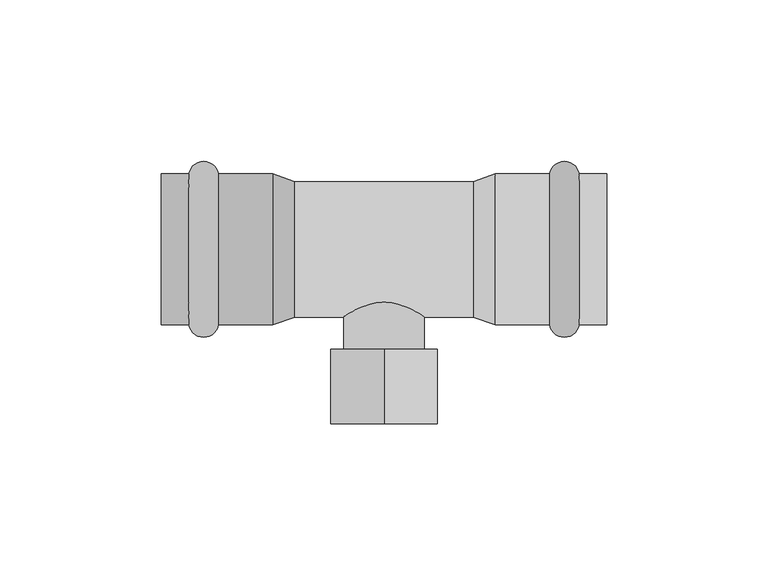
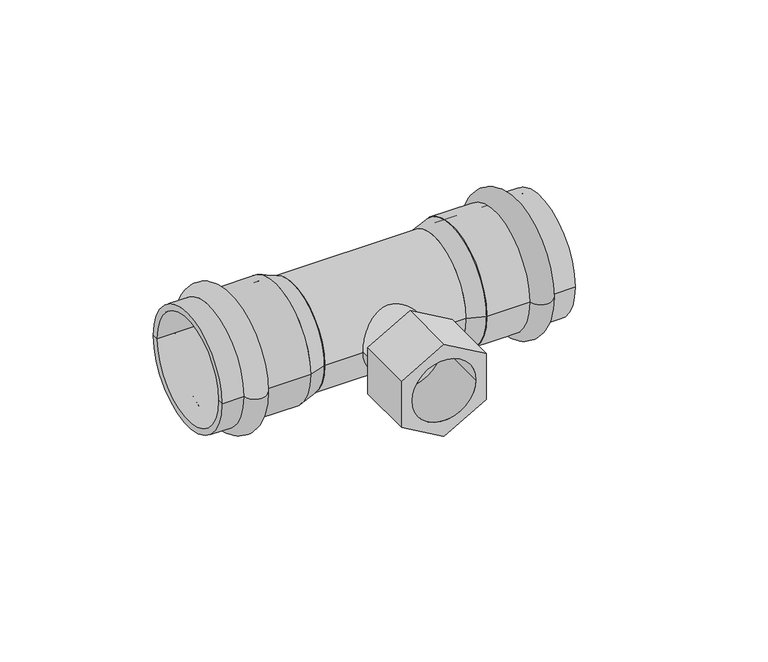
"""IFC4 building model written with IfcOpenShell, lengths in millimetres: pipe fitting geometry, VALTEC_VTi.932.I_Тройник с переходом на внутреннюю резьбу нержавеющая сталь : VTi.932.I."""

from ifc_helpers import new_model, si_unit, point, frame, origin, origin_2d, place, context, project, spatial, polyline, circle_curve, ellipse_curve, trimmed, segment, composite_curve, outline, extrude, source, transform, mapped, element, save
from ifc_brep_helpers import plane_surface, cylinder_surface, revolved_surface, advanced_brep


def pipe_fitting_965f6414(model_context):
    return source(origin(), model_context, "Body", "SolidModel", [
        advanced_brep(
        [(60.4464272, 23.35, 0.0), (60.4464272, -23.35, 0.0), (51.3535728, -23.35, 0.0), (51.3535728, 23.35, 0.0), (69.0, 23.35, 0.0), (69.0, -23.35, 0.0), (69.0, 21.0, 0.0), (69.0, -21.0, 0.0), (34.5, 21.0, 0.0), (34.5, -21.0, 0.0), (34.5, 23.35, 0.0), (34.5, -23.35, 0.0)],
        [
            (0, 1, circle_curve(frame((60.4464272, 0.0, 0.0), z_axis=(-1.0, 0.0, 0.0), x_axis=(0.0, -1.0, 0.0)), 23.35)),
            (1, 2, circle_curve(frame((55.9, -22.65, 0.0), z_axis=(0.0, 0.0, -1.0), x_axis=(-1.0, 0.0, 0.0)), 4.6)),
            (2, 3, circle_curve(frame((51.3535728, 0.0, 0.0), z_axis=(1.0, 0.0, 0.0), x_axis=(0.0, -1.0, 0.0)), 23.35)),
            (3, 0, circle_curve(frame((55.9, 22.65, 0.0), z_axis=(0.0, 0.0, -1.0), x_axis=(-1.0, 0.0, 0.0)), 4.6)),
            (1, 0, circle_curve(frame((60.4464272, 0.0, 0.0), z_axis=(-1.0, 0.0, 0.0), x_axis=(0.0, -1.0, 0.0)), 23.35)),
            (3, 2, circle_curve(frame((51.3535728, 0.0, 0.0), z_axis=(1.0, 0.0, 0.0), x_axis=(0.0, -1.0, 0.0)), 23.35)),
            (4, 5, circle_curve(frame((69.0, 0.0, 0.0), z_axis=(-1.0, 0.0, 0.0), x_axis=(0.0, -1.0, 0.0)), 23.35)),
            (5, 1),
            (0, 4),
            (5, 4, circle_curve(frame((69.0, 0.0, 0.0), z_axis=(-1.0, 0.0, 0.0), x_axis=(0.0, -1.0, 0.0)), 23.35)),
            (6, 7, circle_curve(frame((69.0, 0.0, 0.0), z_axis=(-1.0, 0.0, 0.0), x_axis=(0.0, -1.0, 0.0)), 21.0)),
            (7, 5),
            (4, 6),
            (7, 6, circle_curve(frame((69.0, 0.0, 0.0), z_axis=(-1.0, 0.0, 0.0), x_axis=(0.0, -1.0, 0.0)), 21.0)),
            (8, 9, circle_curve(frame((34.5, 0.0, 0.0), z_axis=(-1.0, 0.0, 0.0), x_axis=(0.0, -1.0, 0.0)), 21.0)),
            (9, 7),
            (6, 8),
            (9, 8, circle_curve(frame((34.5, 0.0, 0.0), z_axis=(-1.0, 0.0, 0.0), x_axis=(0.0, -1.0, 0.0)), 21.0)),
            (10, 11, circle_curve(frame((34.5, 0.0, 0.0), z_axis=(-1.0, 0.0, 0.0), x_axis=(0.0, -1.0, 0.0)), 23.35)),
            (11, 9),
            (8, 10),
            (11, 10, circle_curve(frame((34.5, 0.0, 0.0), z_axis=(-1.0, 0.0, 0.0), x_axis=(0.0, -1.0, 0.0)), 23.35)),
            (2, 11),
            (10, 3),
        ],
        [
            revolved_surface(trimmed(ellipse_curve(frame((55.9, -22.65, 0.0), z_axis=(0.0, 0.0, 1.0), x_axis=(-1.0, 0.0, 0.0)), 4.6, 4.6), [point((51.3535728, -23.35, 0.0))], [point((60.4464272, -23.35, 0.0))], True, "CARTESIAN"), (72.5364426, 0.0, 0.0), (1.0, 0.0, 0.0)),
            cylinder_surface(frame((72.5364426, 0.0, 0.0), z_axis=(1.0, 0.0, 0.0), x_axis=(0.0, -1.0, 0.0)), 23.35),
            plane_surface(frame((69.0, 0.0, 0.0), z_axis=(1.0, 0.0, 0.0), x_axis=(0.0, -1.0, 0.0))),
            revolved_surface(polyline([(69.0, -21.0, 0.0), (34.5, -21.0, 0.0)]), (72.5364426, 0.0, 0.0), (1.0, 0.0, 0.0)),
            plane_surface(frame((34.5, 0.0, 0.0), z_axis=(-1.0, 0.0, 0.0), x_axis=(0.0, -1.0, 0.0))),
        ],
        [
            (0, [[1, 2, 3, 4]]),
            (0, [[5, -4, 6, -2]]),
            (1, [[7, 8, -1, 9]]),
            (1, [[10, -9, -5, -8]]),
            (2, [[11, 12, -7, 13]]),
            (2, [[14, -13, -10, -12]]),
            (3, [[15, 16, -11, 17]]),
            (3, [[18, -17, -14, -16]]),
            (4, [[19, 20, -15, 21]]),
            (4, [[22, -21, -18, -20]]),
            (1, [[-3, 23, -19, 24]]),
            (1, [[-6, -24, -22, -23]]),
        ],
    ),
        advanced_brep(
        [(-60.4464272, -23.35, 0.0), (-60.4464272, 23.35, 0.0), (-51.3535728, 23.35, 0.0), (-51.3535728, -23.35, 0.0), (-69.0, -23.35, 0.0), (-69.0, 23.35, 0.0), (-69.0, -21.0, 0.0), (-69.0, 21.0, 0.0), (-34.5, -21.0, 0.0), (-34.5, 21.0, 0.0), (-34.5, -23.35, 0.0), (-34.5, 23.35, 0.0)],
        [
            (0, 1, circle_curve(frame((-60.4464272, 0.0, 0.0), z_axis=(1.0, 0.0, 0.0), x_axis=(0.0, 1.0, 0.0)), 23.35)),
            (1, 2, circle_curve(frame((-55.9, 22.65, 0.0), z_axis=(0.0, 0.0, -1.0), x_axis=(1.0, 0.0, 0.0)), 4.6)),
            (2, 3, circle_curve(frame((-51.3535728, 0.0, 0.0), z_axis=(-1.0, 0.0, 0.0), x_axis=(0.0, 1.0, 0.0)), 23.35)),
            (3, 0, circle_curve(frame((-55.9, -22.65, 0.0), z_axis=(0.0, 0.0, -1.0), x_axis=(1.0, 0.0, 0.0)), 4.6)),
            (1, 0, circle_curve(frame((-60.4464272, 0.0, 0.0), z_axis=(1.0, 0.0, 0.0), x_axis=(0.0, 1.0, 0.0)), 23.35)),
            (3, 2, circle_curve(frame((-51.3535728, 0.0, 0.0), z_axis=(-1.0, 0.0, 0.0), x_axis=(0.0, 1.0, 0.0)), 23.35)),
            (4, 5, circle_curve(frame((-69.0, 0.0, 0.0), z_axis=(1.0, 0.0, 0.0), x_axis=(0.0, 1.0, 0.0)), 23.35)),
            (5, 1),
            (0, 4),
            (5, 4, circle_curve(frame((-69.0, 0.0, 0.0), z_axis=(1.0, 0.0, 0.0), x_axis=(0.0, 1.0, 0.0)), 23.35)),
            (6, 7, circle_curve(frame((-69.0, 0.0, 0.0), z_axis=(1.0, 0.0, 0.0), x_axis=(0.0, 1.0, 0.0)), 21.0)),
            (7, 5),
            (4, 6),
            (7, 6, circle_curve(frame((-69.0, 0.0, 0.0), z_axis=(1.0, 0.0, 0.0), x_axis=(0.0, 1.0, 0.0)), 21.0)),
            (8, 9, circle_curve(frame((-34.5, 0.0, 0.0), z_axis=(1.0, 0.0, 0.0), x_axis=(0.0, 1.0, 0.0)), 21.0)),
            (9, 7),
            (6, 8),
            (9, 8, circle_curve(frame((-34.5, 0.0, 0.0), z_axis=(1.0, 0.0, 0.0), x_axis=(0.0, 1.0, 0.0)), 21.0)),
            (10, 11, circle_curve(frame((-34.5, 0.0, 0.0), z_axis=(1.0, 0.0, 0.0), x_axis=(0.0, 1.0, 0.0)), 23.35)),
            (11, 9),
            (8, 10),
            (11, 10, circle_curve(frame((-34.5, 0.0, 0.0), z_axis=(1.0, 0.0, 0.0), x_axis=(0.0, 1.0, 0.0)), 23.35)),
            (2, 11),
            (10, 3),
        ],
        [
            revolved_surface(trimmed(ellipse_curve(frame((-55.9, 22.65, 0.0), z_axis=(0.0, 0.0, 1.0), x_axis=(1.0, 0.0, 0.0)), 4.6, 4.6), [point((-51.3535728, 23.35, 0.0))], [point((-60.4464272, 23.35, 0.0))], True, "CARTESIAN"), (-72.5364426, 0.0, 0.0), (-1.0, 0.0, 0.0)),
            cylinder_surface(frame((-72.5364426, 0.0, 0.0), z_axis=(-1.0, 0.0, 0.0), x_axis=(0.0, 1.0, 0.0)), 23.35),
            plane_surface(frame((-69.0, 0.0, 0.0), z_axis=(-1.0, 0.0, 0.0), x_axis=(0.0, 1.0, 0.0))),
            revolved_surface(polyline([(-69.0, 21.0, 0.0), (-34.5, 21.0, 0.0)]), (-72.5364426, 0.0, 0.0), (-1.0, 0.0, 0.0)),
            plane_surface(frame((-34.5, 0.0, 0.0), z_axis=(1.0, 0.0, 0.0), x_axis=(0.0, 1.0, 0.0))),
        ],
        [
            (0, [[1, 2, 3, 4]]),
            (0, [[5, -4, 6, -2]]),
            (1, [[7, 8, -1, 9]]),
            (1, [[10, -9, -5, -8]]),
            (2, [[11, 12, -7, 13]]),
            (2, [[14, -13, -10, -12]]),
            (3, [[15, 16, -11, 17]]),
            (3, [[18, -17, -14, -16]]),
            (4, [[19, 20, -15, 21]]),
            (4, [[22, -21, -18, -20]]),
            (1, [[-3, 23, -19, 24]]),
            (1, [[-6, -24, -22, -23]]),
        ],
    ),
        extrude(outline(polyline([(19.0525589, 0.0), (9.5262794, -16.5), (-9.5262794, -16.5), (-19.0525589, 0.0), (-9.5262794, 16.5), (9.5262794, 16.5), (19.0525589, 0.0)]), holes=[composite_curve([segment(trimmed(circle_curve(origin_2d(), 12.5), [point((0.0, -12.5))], [point((0.0, 12.5))], True, "CARTESIAN"), True, "CONTINUOUS"), segment(trimmed(circle_curve(origin_2d(), 12.5), [point((0.0, 12.5))], [point((0.0, -12.5))], True, "CARTESIAN"), True, "CONTINUOUS")], self_intersect=False)]), frame((0.0, -54.0, 0.0), z_axis=(0.0, 1.0, 0.0), x_axis=(0.0, 0.0, 1.0)), (0.0, 0.0, 1.0), 23.0),
        extrude(outline(composite_curve([segment(trimmed(circle_curve(origin_2d(), 12.5), [point((0.0, -12.5))], [point((0.0, 12.5))], False, "CARTESIAN"), True, "CONTINUOUS"), segment(trimmed(circle_curve(origin_2d(), 12.5), [point((0.0, 12.5))], [point((0.0, -12.5))], False, "CARTESIAN"), True, "CONTINUOUS")], self_intersect=False)), frame((0.0, -31.0, 0.0), z_axis=(0.0, 1.0, 0.0), x_axis=(0.0, 0.0, 1.0)), (0.0, 0.0, 1.0), 31.0),
        extrude(outline(composite_curve([segment(trimmed(circle_curve(origin_2d(), 21.0), [point((-21.0, 0.0))], [point((21.0, 0.0))], False, "CARTESIAN"), True, "CONTINUOUS"), segment(trimmed(circle_curve(origin_2d(), 21.0), [point((21.0, 0.0))], [point((-21.0, 0.0))], False, "CARTESIAN"), True, "CONTINUOUS")], self_intersect=False)), frame((-27.6, 0.0, 0.0), z_axis=(1.0, 0.0, 0.0), x_axis=(0.0, 1.0, 0.0)), (0.0, 0.0, 1.0), 55.2),
        advanced_brep(
        [(34.5, -23.35, 0.0), (34.5, 23.35, 0.0), (27.6, -21.0, 0.0), (27.6, 21.0, 0.0)],
        [
            (0, 1, circle_curve(frame((34.5, 0.0, 0.0), z_axis=(1.0, 0.0, 0.0), x_axis=(0.0, -1.0, 0.0)), 23.35)),
            (1, 0, circle_curve(frame((34.5, 0.0, 0.0), z_axis=(1.0, 0.0, 0.0), x_axis=(0.0, 1.0, 0.0)), 23.35)),
            (2, 3, circle_curve(frame((27.6, 0.0, 0.0), z_axis=(-1.0, 0.0, 0.0), x_axis=(0.0, 1.0, 0.0)), 21.0)),
            (3, 2, circle_curve(frame((27.6, 0.0, 0.0), z_axis=(-1.0, 0.0, 0.0), x_axis=(0.0, -1.0, 0.0)), 21.0)),
            (3, 1),
            (0, 2),
        ],
        [
            plane_surface(frame((34.5, 0.0, 0.0), z_axis=(1.0, 0.0, 0.0), x_axis=(0.0, 0.0, 1.0))),
            plane_surface(frame((27.6, 0.0, 0.0), z_axis=(-1.0, 0.0, 0.0), x_axis=(0.0, 0.0, 1.0))),
            revolved_surface(polyline([(27.6, 21.00000000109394, 0.0), (34.5, 23.35, 0.0)]), (-34.0595745, 0.0, 0.0), (1.0, 0.0, 0.0)),
            revolved_surface(polyline([(27.6, -21.00000000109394, 0.0), (34.5, -23.35, 0.0)]), (-34.0595745, 0.0, 0.0), (1.0, 0.0, 0.0)),
        ],
        [
            (0, [[1, 2]]),
            (1, [[3, 4]]),
            (2, [[-4, 5, -1, 6]]),
            (3, [[-3, -6, -2, -5]]),
        ],
    ),
        advanced_brep(
        [(-34.5, -23.35, 0.0), (-34.5, 23.35, 0.0), (-27.6, -21.0, 0.0), (-27.6, 21.0, 0.0)],
        [
            (0, 1, circle_curve(frame((-34.5, 0.0, 0.0), z_axis=(-1.0, 0.0, 0.0), x_axis=(0.0, -1.0, 0.0)), 23.35)),
            (1, 0, circle_curve(frame((-34.5, 0.0, 0.0), z_axis=(-1.0, 0.0, 0.0), x_axis=(0.0, 1.0, 0.0)), 23.35)),
            (2, 3, circle_curve(frame((-27.6, 0.0, 0.0), z_axis=(1.0, 0.0, 0.0), x_axis=(0.0, 1.0, 0.0)), 21.0)),
            (3, 2, circle_curve(frame((-27.6, 0.0, 0.0), z_axis=(1.0, 0.0, 0.0), x_axis=(0.0, -1.0, 0.0)), 21.0)),
            (2, 0),
            (1, 3),
        ],
        [
            plane_surface(frame((-34.5, 0.0, 0.0), z_axis=(-1.0, 0.0, 0.0), x_axis=(0.0, 0.0, -1.0))),
            plane_surface(frame((-27.6, 0.0, 0.0), z_axis=(1.0, 0.0, 0.0), x_axis=(0.0, 0.0, -1.0))),
            revolved_surface(polyline([(-27.6, -21.00000000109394, 0.0), (-34.5, -23.35, 0.0)]), (34.0595745, 0.0, 0.0), (-1.0, 0.0, 0.0)),
            revolved_surface(polyline([(-27.6, 21.00000000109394, 0.0), (-34.5, 23.35, 0.0)]), (34.0595745, 0.0, 0.0), (-1.0, 0.0, 0.0)),
        ],
        [
            (0, [[1, 2]]),
            (1, [[3, 4]]),
            (2, [[-3, 5, -2, 6]]),
            (3, [[-4, -6, -1, -5]]),
        ],
    ),
    ])


if __name__ == "__main__":
    model = new_model("IFC4")
    model_context = context("Model", 3, world=origin())
    ifc_project = project(units=[si_unit("LENGTHUNIT", "METRE", prefix="MILLI")], contexts=[model_context])
    site = spatial("IfcSite", under=ifc_project)
    building = spatial("IfcBuilding", under=site)
    placement = place(None, origin())
    pipe_fitting_shape = pipe_fitting_965f6414(model_context)
    element("IfcPipeFitting", 1, ObjectType="VALTEC_VTi.932.I_Тройник с переходом на внутреннюю резьбу нержавеющая сталь : VTi.932.I", at=placement, inside=building, context=model_context, shape_type="MappedRepresentation", body=[
        mapped(pipe_fitting_shape, transform((0.0, 0.0, 0.0), x_axis=(1.0, 0.0, 0.0), y_axis=(0.0, 1.0, 0.0), z_axis=(0.0, 0.0, 1.0))),
    ])
    save(model, "model.ifc")
